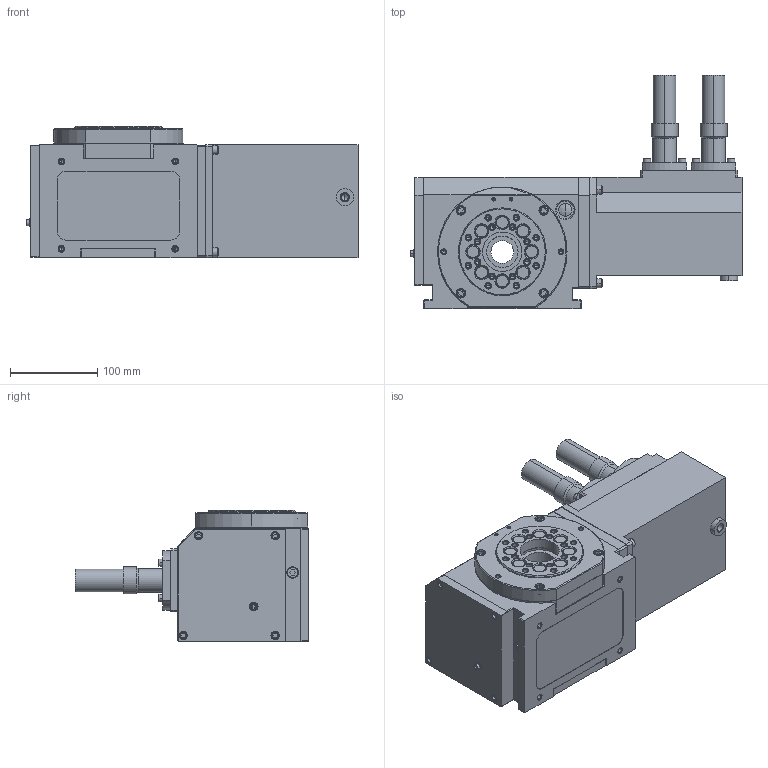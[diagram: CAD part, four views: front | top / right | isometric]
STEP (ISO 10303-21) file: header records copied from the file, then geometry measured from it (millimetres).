
FILE_DESCRIPTION (( 'STEP AP214' ), '1' );
FILE_NAME ('【掲載用】DME100RF.STEP', '2020-04-06T04:32:00', ( '' ), ( '' ), 'SwSTEP 2.0', 'SolidWorks 2017', '' );
FILE_SCHEMA (( 'AUTOMOTIVE_DESIGN' ));
Length unit declared in the file: millimetre
Products named in the file (9): DME100RF02儂儞僞僀; フレキシブルチューブ; モータケース(61E2628010)DME100RF01; アダプタ(61E8073742)DME100RF01; DME100R00僋儈僞僥(61E500516); オイルゲージ 207; テーブル(61E2628002)DME100R00; 儂儞僞僀ASSY(61E2629173)DME100R00; 【掲載用】DME100RF
Assembly tree (9 placements, depth 4):
  【掲載用】DME100RF
    DME100RF02儂儞僞僀
      DME100R00僋儈僞僥(61E500516)
        儂儞僞僀ASSY(61E2629173)DME100R00
        テーブル(61E2628002)DME100R00
        オイルゲージ 207
      アダプタ(61E8073742)DME100RF01
      モータケース(61E2628010)DME100RF01
      フレキシブルチューブ  x2
Bounding box: 379.5 x 267 x 150 mm (x, y, z)
Volume: 6471304.2 mm3; surface area: 445825.1 mm2
Topology: 7 solids, 7 shells, 1089 faces, 2473 edges, 1521 vertices
Faces by surface type: plane 458, cylinder 353, cone 258, torus 16, sphere 4
Entity records: 32933 total; most frequent: DIRECTION 5233, CARTESIAN_POINT 4753, ORIENTED_EDGE 4510, EDGE_CURVE 2255, AXIS2_PLACEMENT_3D 1949, VERTEX_POINT 1429, LINE 1335, VECTOR 1335
